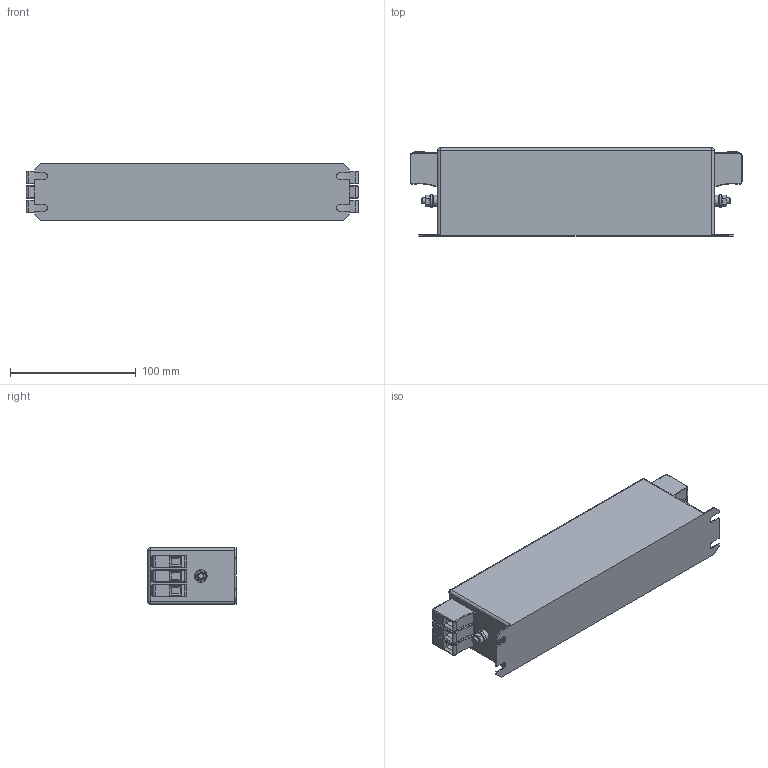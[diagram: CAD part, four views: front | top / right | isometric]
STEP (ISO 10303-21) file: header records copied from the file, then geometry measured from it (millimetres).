
FILE_DESCRIPTION((''),'2;1');
FILE_NAME('L:\INVENTOR_Projektedaten\HousingDesign\FN3258-16-44.stp','2012-10-05T08:47:53',('Samuel.Meier'),(''),'Autodesk Inventor 2010','Autodesk Inventor 2010','');
FILE_SCHEMA(('AUTOMOTIVE_DESIGN { 1 2 10303 214 0 1 1 1 }'));
Length unit declared in the file: millimetre
Products named in the file (1): Bauteil1
Bounding box: 263.8 x 70 x 45 mm (x, y, z)
Volume: 725907.5 mm3; surface area: 69607.3 mm2
Topology: 1 solids, 3 shells, 418 faces, 1010 edges, 620 vertices
Faces by surface type: bspline 178, plane 131, cylinder 65, torus 24, cone 10, sphere 10
Full cylindrical faces by diameter (mm): 4.5 x3, 5 x2, 5.3 x2, 8.5 x4, 10 x2
Entity records: 13666 total; most frequent: CARTESIAN_POINT 4249, ORIENTED_EDGE 1864, DIRECTION 1710, EDGE_CURVE 932, VERTEX_POINT 604, VECTOR 588, LINE 588, AXIS2_PLACEMENT_3D 561
